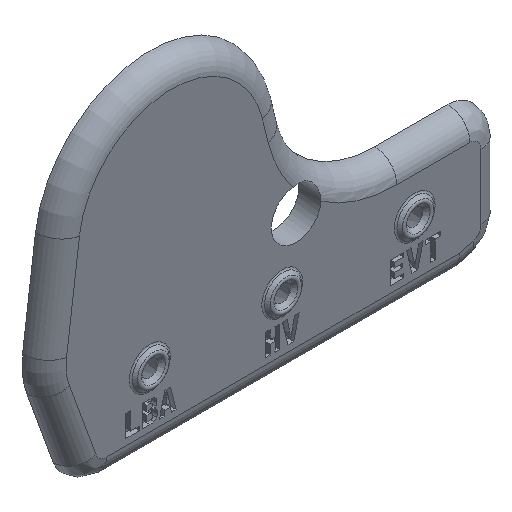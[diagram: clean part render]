
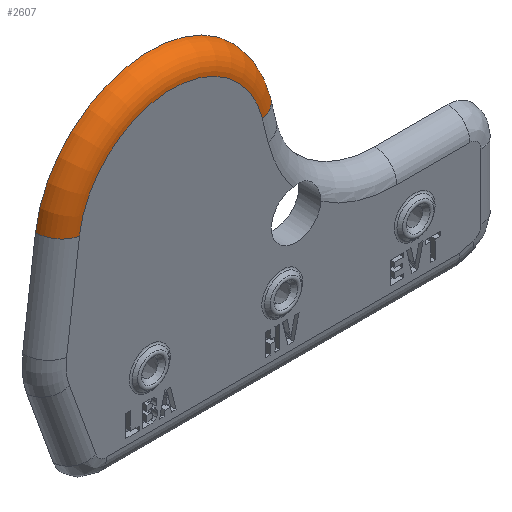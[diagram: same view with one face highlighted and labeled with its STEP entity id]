
A CAD part, isometric view. The second image highlights one B-rep face of the part: STEP entity #2607.
In plain terms, the highlighted toroidal (fillet/blend) face has major radius 8.45 mm and minor radius 2 mm.
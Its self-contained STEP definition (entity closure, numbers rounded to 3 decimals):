
#65=TOROIDAL_SURFACE('',#2814,8.45,2.);
#191=FACE_OUTER_BOUND('',#346,.T.);
#346=EDGE_LOOP('',(#1994,#1995,#1996,#1997));
#1020=CIRCLE('',#2750,8.45);
#1065=CIRCLE('',#2813,2.);
#1066=CIRCLE('',#2815,10.45);
#1067=CIRCLE('',#2816,2.);
#1143=VERTEX_POINT('',#3562);
#1144=VERTEX_POINT('',#3564);
#1267=VERTEX_POINT('',#3936);
#1268=VERTEX_POINT('',#3940);
#1406=EDGE_CURVE('',#1144,#1143,#1020,.T.);
#1549=EDGE_CURVE('',#1267,#1143,#1065,.T.);
#1550=EDGE_CURVE('',#1267,#1268,#1066,.T.);
#1551=EDGE_CURVE('',#1268,#1144,#1067,.T.);
#1994=ORIENTED_EDGE('',*,*,#1549,.F.);
#1995=ORIENTED_EDGE('',*,*,#1550,.T.);
#1996=ORIENTED_EDGE('',*,*,#1551,.T.);
#1997=ORIENTED_EDGE('',*,*,#1406,.T.);
#2607=ADVANCED_FACE('',(#191),#65,.T.);
#2750=AXIS2_PLACEMENT_3D('',#3565,#2933,#2934);
#2813=AXIS2_PLACEMENT_3D('',#3938,#3138,#3139);
#2814=AXIS2_PLACEMENT_3D('',#3939,#3140,#3141);
#2815=AXIS2_PLACEMENT_3D('',#3941,#3142,#3143);
#2816=AXIS2_PLACEMENT_3D('',#3942,#3144,#3145);
#2933=DIRECTION('center_axis',(0.,1.,0.));
#2934=DIRECTION('ref_axis',(-0.054,0.,0.999));
#3138=DIRECTION('center_axis',(0.235,0.,-0.972));
#3139=DIRECTION('ref_axis',(0.972,0.,0.235));
#3140=DIRECTION('center_axis',(0.,-1.,0.));
#3141=DIRECTION('ref_axis',(-0.054,0.,0.999));
#3142=DIRECTION('center_axis',(0.,-1.,0.));
#3143=DIRECTION('ref_axis',(0.972,0.,0.235));
#3144=DIRECTION('center_axis',(0.129,0.,0.992));
#3145=DIRECTION('ref_axis',(-0.992,0.,0.129));
#3562=CARTESIAN_POINT('',(19.963,-7.1,16.465));
#3564=CARTESIAN_POINT('',(3.37,-7.1,15.573));
#3565=CARTESIAN_POINT('Origin',(11.749,-7.1,14.48));
#3936=CARTESIAN_POINT('',(21.907,-5.1,16.934));
#3938=CARTESIAN_POINT('Origin',(19.963,-5.1,16.465));
#3939=CARTESIAN_POINT('Origin',(11.749,-5.1,14.48));
#3940=CARTESIAN_POINT('',(1.387,-5.1,15.832));
#3941=CARTESIAN_POINT('Origin',(11.749,-5.1,14.48));
#3942=CARTESIAN_POINT('Origin',(3.37,-5.1,15.573));
